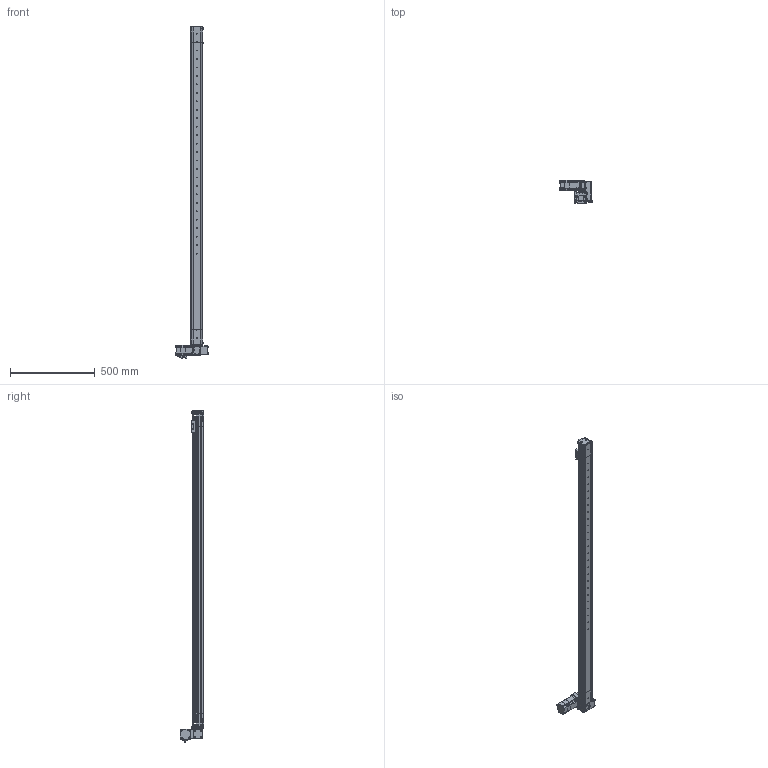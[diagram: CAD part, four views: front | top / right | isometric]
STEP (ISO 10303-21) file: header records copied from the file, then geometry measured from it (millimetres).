
FILE_DESCRIPTION (( 'STEP AP214' ), '1' );
FILE_NAME ('S07 TBN LT S1700.STEP', '2010-06-29T12:18:31', ( 'Conseil Régional Haute-Normandie' ), ( 'Conseil Régional Haute-Normandie' ), 'SwSTEP 2.0', 'SolidWorks 2010', '' );
FILE_SCHEMA (( 'AUTOMOTIVE_DESIGN' ));
Length unit declared in the file: millimetre
Products named in the file (41): GMB 60 90 310_Default; Poulie_Default; couvercle tail TB; T皻e de poulie_Default; plaque de bout_Default; corp tail TB_Default; S07 TB tail (78)_Default; Conecteur2 60BLDC_Default; Conecteur 60BLDC_Default; Axe 60BLDC_Default; Vis M5 L16-2_Default; Cvis M5 L30_Default; VisM3_Default; P4_Default; P3 90A_Default; P2 90A_Default; P1_Default; vis M5 L12_Default; guide; CHariot_Default; couroie tail_Default; vis M5 L16_Default; Chariot; Course C L1700_Default; S07 TBN LT S1700; couvercle S07 course 1700 ; Couroie  course 1700_Default; Corp S07 course 1700_Default; plaque de bout LT_Default; corp moteur TB(146)_Default; S07 LT(146)_Default; Poulie head_Default; cache t皻e axe_Default; couvercle moteur S07 TB; Pièce5^S07 LT(146); vis M5 L5_Default; cache t皻e_Default; renvoi LT_Default; Plaque racord_Default; Couroie t皻e_Default
Assembly tree (80 placements, depth 4):
  S07 TBN LT S1700
    CHariot_Default
      vis M5 L16_Default  x2
      guide
      Chariot
    S07 TB tail (78)_Default
      vis M5 L12_Default  x10
      plaque de bout_Default
      Poulie_Default
        T皻e de poulie_Default
        Poulie_Default
      corp tail TB_Default
      couvercle tail TB
      couroie tail_Default
    S07 LT(146)_Default
      Vis M5 L16-2_Default  x8
      vis M5 L12_Default  x6
      corp moteur TB(146)_Default
      plaque de bout LT_Default
      Couroie t皻e_Default
      vis M5 L5_Default  x6
      Poulie head_Default
      renvoi LT_Default
      couvercle moteur S07 TB
      Cvis M5 L30_Default  x2
      cache t皻e axe_Default
      cache t皻e_Default  x2
      GMB 60 90 310_Default
        Conecteur2 60BLDC_Default
        VisM3_Default  x12
        P1_Default
        P2 90A_Default
        Conecteur 60BLDC_Default
        Axe 60BLDC_Default
        P4_Default
        P3 90A_Default
      Plaque racord_Default
    Course C L1700_Default
      Corp S07 course 1700_Default
      Couroie  course 1700_Default
      couvercle S07 course 1700 
  Pièce5^S07 LT(146)
Bounding box: 190.2 x 139.5 x 1962 mm (x, y, z)
Volume: 3752014.5 mm3; surface area: 1649268.9 mm2
Topology: 102 solids, 102 shells, 3950 faces, 9822 edges, 6345 vertices
Faces by surface type: plane 2239, cylinder 781, bspline 677, cone 125, torus 124, sphere 4
Entity records: 167921 total; most frequent: CARTESIAN_POINT 75311, ORIENTED_EDGE 15556, DIRECTION 12439, EDGE_CURVE 7778, VERTEX_POINT 5133, VECTOR 5061, LINE 5061, AXIS2_PLACEMENT_3D 3689
